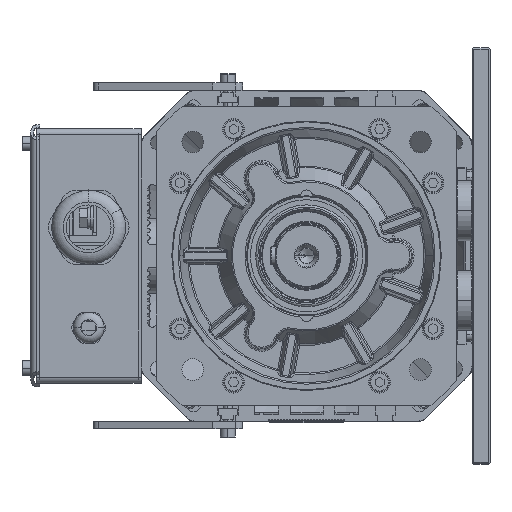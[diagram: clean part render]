
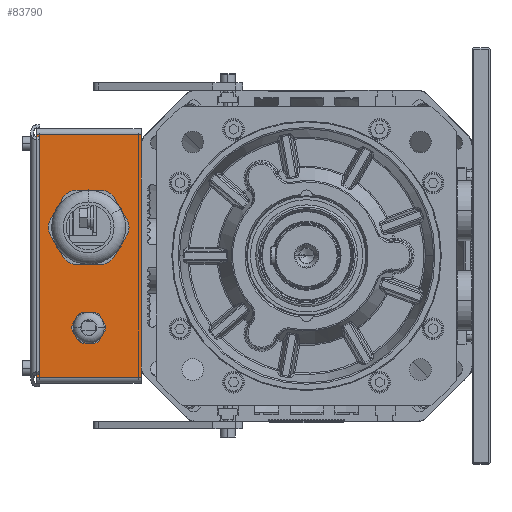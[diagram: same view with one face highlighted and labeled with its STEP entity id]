
A CAD part, left-side view. The second image highlights one B-rep face of the part: STEP entity #83790.
In plain terms, the highlighted planar face has unit normal (-1, 0, 0).
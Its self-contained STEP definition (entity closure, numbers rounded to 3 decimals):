
#81600=DIRECTION('',(0.,0.,1.));
#81601=VECTOR('',#81600,162.);
#81602=CARTESIAN_POINT('',(168.,110.5,-81.));
#81603=LINE('',#81602,#81601);
#81877=CARTESIAN_POINT('',(168.,145.5,-48.));
#81878=DIRECTION('',(-1.,0.,0.));
#81879=DIRECTION('',(0.,1.,0.));
#81880=AXIS2_PLACEMENT_3D('',#81877,#81878,#81879);
#81882=CARTESIAN_POINT('',(168.,145.5,-48.));
#81883=DIRECTION('',(-1.,0.,0.));
#81884=DIRECTION('',(0.,-1.,0.));
#81885=AXIS2_PLACEMENT_3D('',#81882,#81883,#81884);
#81887=CARTESIAN_POINT('',(168.,145.5,19.));
#81888=DIRECTION('',(-1.,0.,0.));
#81889=DIRECTION('',(0.,1.,0.));
#81890=AXIS2_PLACEMENT_3D('',#81887,#81888,#81889);
#81892=CARTESIAN_POINT('',(168.,145.5,19.));
#81893=DIRECTION('',(-1.,0.,0.));
#81894=DIRECTION('',(0.,-1.,0.));
#81895=AXIS2_PLACEMENT_3D('',#81892,#81893,#81894);
#81897=DIRECTION('',(0.,0.,1.));
#81898=VECTOR('',#81897,162.);
#81899=CARTESIAN_POINT('',(168.,180.5,-81.));
#81900=LINE('',#81899,#81898);
#82819=DIRECTION('',(0.,-1.,0.));
#82820=VECTOR('',#82819,70.);
#82821=CARTESIAN_POINT('',(168.,180.5,-81.));
#82822=LINE('',#82821,#82820);
#82839=DIRECTION('',(0.,1.,0.));
#82840=VECTOR('',#82839,70.);
#82841=CARTESIAN_POINT('',(168.,110.5,81.));
#82842=LINE('',#82841,#82840);
#83169=CARTESIAN_POINT('',(168.,155.5,-48.));
#83170=CARTESIAN_POINT('',(168.,135.5,-48.));
#83171=VERTEX_POINT('',#83169);
#83172=VERTEX_POINT('',#83170);
#83173=CARTESIAN_POINT('',(168.,170.5,19.));
#83174=CARTESIAN_POINT('',(168.,120.5,19.));
#83175=VERTEX_POINT('',#83173);
#83176=VERTEX_POINT('',#83174);
#83321=CARTESIAN_POINT('',(168.,110.5,-81.));
#83323=VERTEX_POINT('',#83321);
#83334=CARTESIAN_POINT('',(168.,110.5,81.));
#83336=VERTEX_POINT('',#83334);
#83369=CARTESIAN_POINT('',(168.,180.5,81.));
#83371=VERTEX_POINT('',#83369);
#83382=CARTESIAN_POINT('',(168.,180.5,-81.));
#83384=VERTEX_POINT('',#83382);
#83765=CARTESIAN_POINT('',(168.,110.5,-85.));
#83766=DIRECTION('',(-1.,0.,0.));
#83767=DIRECTION('',(0.,0.,1.));
#83768=AXIS2_PLACEMENT_3D('',#83765,#83766,#83767);
#83769=PLANE('',#83768);
#83771=ORIENTED_EDGE('',*,*,#83770,.F.);
#83772=ORIENTED_EDGE('',*,*,#83572,.F.);
#83774=ORIENTED_EDGE('',*,*,#83773,.F.);
#83775=ORIENTED_EDGE('',*,*,#83632,.T.);
#83776=EDGE_LOOP('',(#83771,#83772,#83774,#83775));
#83777=FACE_OUTER_BOUND('',#83776,.F.);
#83779=ORIENTED_EDGE('',*,*,#83778,.T.);
#83781=ORIENTED_EDGE('',*,*,#83780,.T.);
#83782=EDGE_LOOP('',(#83779,#83781));
#83783=FACE_BOUND('',#83782,.F.);
#83785=ORIENTED_EDGE('',*,*,#83784,.T.);
#83787=ORIENTED_EDGE('',*,*,#83786,.T.);
#83788=EDGE_LOOP('',(#83785,#83787));
#83789=FACE_BOUND('',#83788,.F.);
#83790=ADVANCED_FACE('',(#83777,#83783,#83789),#83769,.T.);
#81881=CIRCLE('',#81880,10.);
#81886=CIRCLE('',#81885,10.);
#81891=CIRCLE('',#81890,25.);
#81896=CIRCLE('',#81895,25.);
#83572=EDGE_CURVE('',#83323,#83336,#81603,.T.);
#83632=EDGE_CURVE('',#83384,#83371,#81900,.T.);
#83770=EDGE_CURVE('',#83336,#83371,#82842,.T.);
#83773=EDGE_CURVE('',#83384,#83323,#82822,.T.);
#83778=EDGE_CURVE('',#83175,#83176,#81891,.T.);
#83780=EDGE_CURVE('',#83176,#83175,#81896,.T.);
#83784=EDGE_CURVE('',#83171,#83172,#81881,.T.);
#83786=EDGE_CURVE('',#83172,#83171,#81886,.T.);
